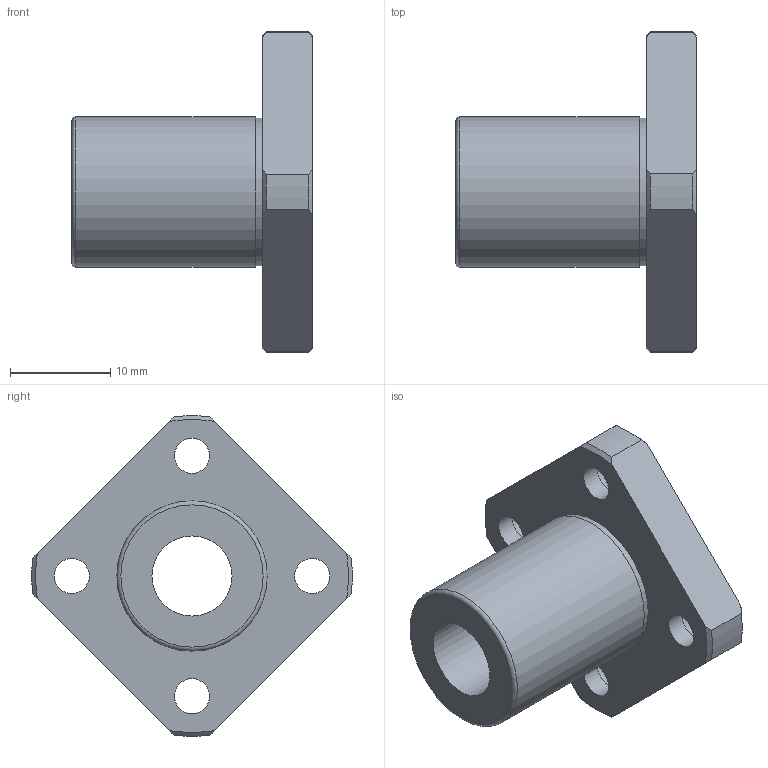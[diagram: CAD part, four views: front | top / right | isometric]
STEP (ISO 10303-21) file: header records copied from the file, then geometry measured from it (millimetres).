
FILE_DESCRIPTION(('STEP AP203'),'1');
FILE_NAME('//192.168.1.1/share/s-4 技術開発/s-4-4_CAD/s-4-4-3_見直し済み/002 修正済み/NF-V/NF-8TVUU.step','2022-03-08T06:44:29',(' '),(' '),'Spatial InterOp 3D',' ',' ');
FILE_SCHEMA(('CONFIG_CONTROL_DESIGN'));
Length unit declared in the file: millimetre
Products named in the file (1): 1
Bounding box: 24 x 31.98 x 31.98 mm (x, y, z)
Volume: 4785.1 mm3; surface area: 3332.7 mm2
Topology: 1 solids, 1 shells, 36 faces, 89 edges, 61 vertices
Faces by surface type: cylinder 15, plane 12, cone 8, torus 1
Full cylindrical faces by diameter (mm): 3.5 x4, 6 x4, 8 x1, 14.7 x1, 15 x1
Entity records: 1026 total; most frequent: CARTESIAN_POINT 195, DIRECTION 168, ORIENTED_EDGE 142, AXIS2_PLACEMENT_3D 76, EDGE_CURVE 71, EDGE_LOOP 64, VERTEX_POINT 55, FACE_OUTER_BOUND 48
